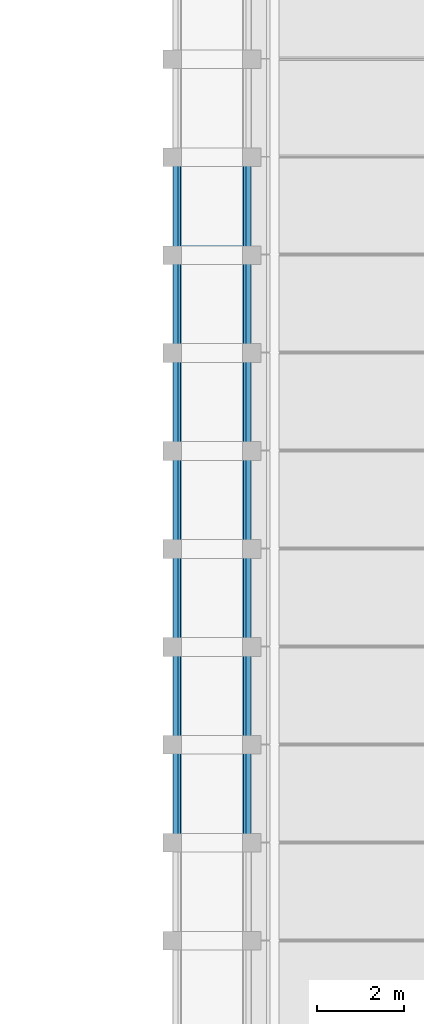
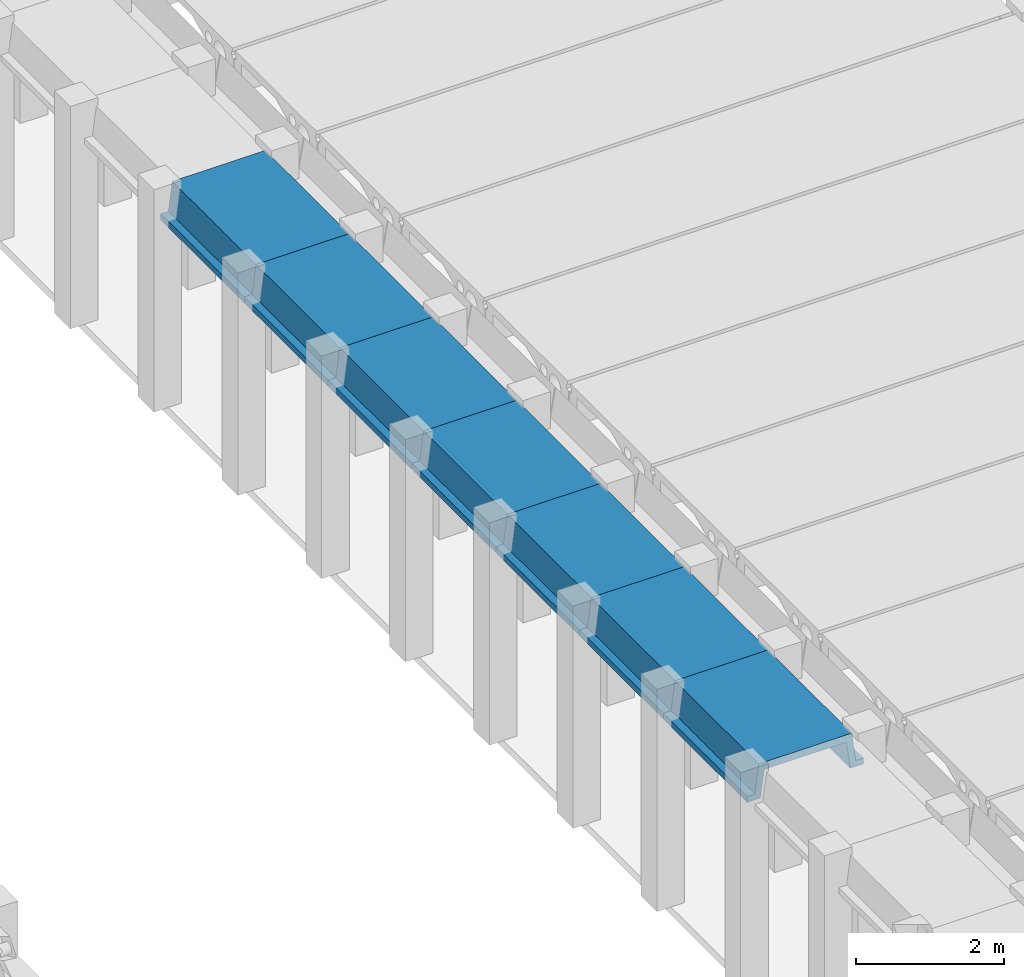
# One storey, part 11 of 18: 7 beams.
"""IFC2X3 building model written with IfcOpenShell, lengths in millimetres."""

from ifc_helpers import new_model, entity, si_unit, converted_unit, derived_unit, direction, frame, origin, place, context, subcontext, project, spatial, polyline, outline, extrude, material, type_object, element, save


model = new_model("IFC2X3")

# Units and contexts
model_context = context("Model", 3, precision=0.01, world=origin(), true_north=direction((6.12303176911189e-17, 1.0)))
body_context = subcontext(model_context, "Body", "Model", "MODEL_VIEW")
ifc_project = project(units=[si_unit("LENGTHUNIT", "METRE", prefix="MILLI"), si_unit("AREAUNIT", "SQUARE_METRE"), si_unit("VOLUMEUNIT", "CUBIC_METRE"), converted_unit("PLANEANGLEUNIT", "DEGREE", entity("IfcRatioMeasure", 0.0174532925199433), si_unit("PLANEANGLEUNIT", "RADIAN"), dimensions=[0, 0, 0, 0, 0, 0, 0]), si_unit("MASSUNIT", "GRAM", prefix="KILO"), derived_unit("MASSDENSITYUNIT", [(si_unit("MASSUNIT", "GRAM", prefix="KILO"), 1), (si_unit("LENGTHUNIT", "METRE"), -3)]), derived_unit("MOMENTOFINERTIAUNIT", [(si_unit("LENGTHUNIT", "METRE"), 4)]), si_unit("TIMEUNIT", "SECOND"), si_unit("FREQUENCYUNIT", "HERTZ"), si_unit("THERMODYNAMICTEMPERATUREUNIT", "DEGREE_CELSIUS"), derived_unit("THERMALTRANSMITTANCEUNIT", [(si_unit("MASSUNIT", "GRAM", prefix="KILO"), 1), (si_unit("THERMODYNAMICTEMPERATUREUNIT", "KELVIN"), -1), (si_unit("TIMEUNIT", "SECOND"), -3)]), derived_unit("VOLUMETRICFLOWRATEUNIT", [(si_unit("LENGTHUNIT", "METRE"), 3), (si_unit("TIMEUNIT", "SECOND"), -1)]), si_unit("ELECTRICCURRENTUNIT", "AMPERE"), si_unit("ELECTRICVOLTAGEUNIT", "VOLT"), si_unit("POWERUNIT", "WATT"), si_unit("FORCEUNIT", "NEWTON", prefix="KILO"), si_unit("ILLUMINANCEUNIT", "LUX"), si_unit("LUMINOUSFLUXUNIT", "LUMEN"), si_unit("LUMINOUSINTENSITYUNIT", "CANDELA"), derived_unit("USERDEFINED", [(si_unit("MASSUNIT", "GRAM", prefix="KILO"), -1), (si_unit("LENGTHUNIT", "METRE"), -2), (si_unit("TIMEUNIT", "SECOND"), 3), (si_unit("LUMINOUSFLUXUNIT", "LUMEN"), 1)]), derived_unit("LINEARVELOCITYUNIT", [(si_unit("LENGTHUNIT", "METRE"), 1), (si_unit("TIMEUNIT", "SECOND"), -1)]), si_unit("PRESSUREUNIT", "PASCAL"), derived_unit("USERDEFINED", [(si_unit("LENGTHUNIT", "METRE"), -2), (si_unit("MASSUNIT", "GRAM", prefix="KILO"), 1), (si_unit("TIMEUNIT", "SECOND"), -2)]), derived_unit("LINEARFORCEUNIT", [(si_unit("MASSUNIT", "GRAM", prefix="KILO"), 1), (si_unit("LENGTHUNIT", "METRE"), 1), (si_unit("TIMEUNIT", "SECOND"), -2), (si_unit("LENGTHUNIT", "METRE"), -1)]), derived_unit("PLANARFORCEUNIT", [(si_unit("MASSUNIT", "GRAM", prefix="KILO"), 1), (si_unit("LENGTHUNIT", "METRE"), 1), (si_unit("TIMEUNIT", "SECOND"), -2), (si_unit("LENGTHUNIT", "METRE"), -2)])], contexts=[model_context])

# Site, building, storey
site_placement = place(None, frame((10627.5135316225, 21939.0796949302, 0.0)))
site = spatial("IfcSite", under=ifc_project, at=site_placement, Name="Default", CompositionType="ELEMENT")
building_placement = place(site_placement, origin())
building = spatial("IfcBuilding", under=site, at=building_placement, CompositionType="ELEMENT")
storey_placement = place(building_placement, frame((0.0, 0.0, 3660.0)))
storey = spatial("IfcBuildingStorey", under=building, at=storey_placement, Name="R+1", CompositionType="ELEMENT", Elevation=3660.0)

# Beams
ifc_material = material(Name="Concrete, Precast Smooth, Light Grey")
beam_type = type_object("IfcBeamType", Name="Poutre petite:Poutre petite", PredefinedType="NOTDEFINED")
for number, where, z_axis, x_axis, name in (
    (1, (52487.4864683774, 7440.92030506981, 3530.0), (0.0, 0.0, 1.0), (0.0, 1.0, 0.0), "Poutre petite:Poutre petite"),
    (2, (52487.4864683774, 5180.92030506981, 3530.0), (0.0, 0.0, 1.0), (0.0, 1.0, 0.0), "Poutre petite:Poutre petite"),
    (3, (52487.4864683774, 2920.92030506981, 3530.0), (0.0, 0.0, 1.0), (0.0, 1.0, 0.0), "Poutre petite:Poutre petite"),
    (4, (52487.4864683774, 660.920305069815, 3530.0), (0.0, 0.0, 1.0), (0.0, 1.0, 0.0), "Poutre petite:Poutre petite"),
    (5, (52487.4864683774, -1599.07969493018, 3530.0), (0.0, 0.0, 1.0), (0.0, 1.0, 0.0), "Poutre petite:Poutre petite"),
    (6, (52487.4864683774, -3859.07969493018, 3530.0), (0.0, 0.0, 1.0), (0.0, 1.0, 0.0), "Poutre petite:Poutre petite"),
    (7, (52487.4864683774, -6119.07969493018, 3530.0), (0.0, 0.0, 1.0), (0.0, 1.0, 0.0), "Poutre petite:Poutre petite"),
):
    element("IfcBeam", number, at=place(storey_placement, frame(where, z_axis=z_axis, x_axis=x_axis)), inside=storey, type_object=beam_type, material=ifc_material, Name=name, ObjectType="Poutre petite:Poutre petite", context=body_context, shape_type="SweptSolid", body=[
        extrude(outline(polyline([(103.333217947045, -905.014058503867), (203.333564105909, -905.014058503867), (203.333564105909, -700.0135432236), (-246.666782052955, -640.013497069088), (-246.666782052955, 640.013684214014), (203.333564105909, 700.013730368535), (203.333564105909, 905.013684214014), (103.333217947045, 905.013684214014), (103.333217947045, 785.013684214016), (-366.666782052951, 725.01368421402), (-366.666782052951, -725.013497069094), (103.333217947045, -785.013497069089), (103.333217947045, -905.014058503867)])), frame((0.0, 0.000187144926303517, -366.666782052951), z_axis=(1.0, 0.0, 0.0), x_axis=(0.0, 0.0, -1.0)), (0.0, 0.0, 1.0), 2260.0),
    ])

save(model, "model.ifc")
